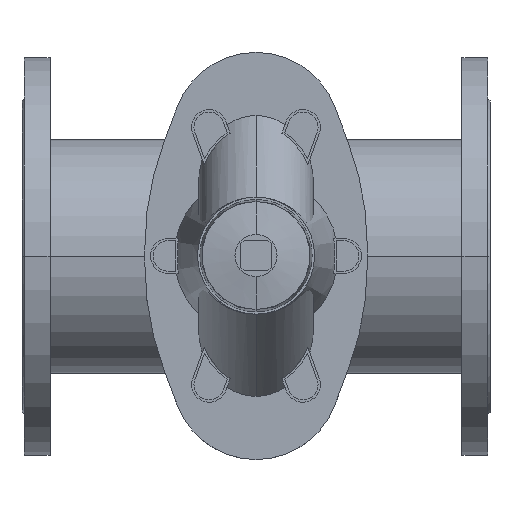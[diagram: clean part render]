
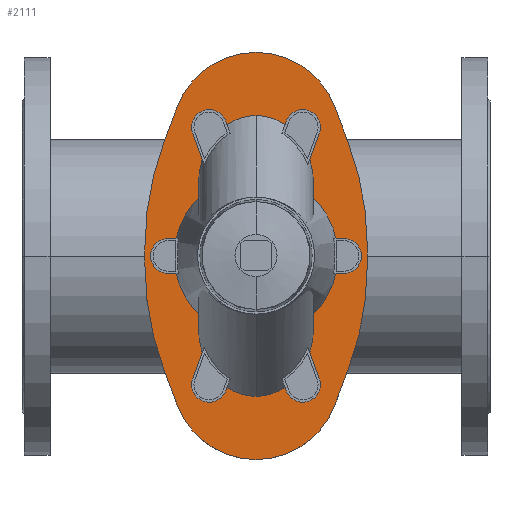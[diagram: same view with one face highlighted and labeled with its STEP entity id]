
A CAD part, top view. The second image highlights one B-rep face of the part: STEP entity #2111.
In plain terms, the highlighted planar face has unit normal (0, 0, 1).
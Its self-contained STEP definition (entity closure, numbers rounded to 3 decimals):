
#2111=ADVANCED_FACE('',(#3930),#3931,.T.);
#3930=FACE_OUTER_BOUND('',#5889,.T.);
#3931=PLANE('',#5890);
#5889=EDGE_LOOP('',(#10248,#10249,#10250,#10251,#10252,#10253,#10254,#10255,#10256,#10257,#10258,#10259,#10260,#10261));
#5890=AXIS2_PLACEMENT_3D('',#10262,#10263,#10264);
#10248=ORIENTED_EDGE('',*,*,#11190,.F.);
#10249=ORIENTED_EDGE('',*,*,#11006,.F.);
#10250=ORIENTED_EDGE('',*,*,#10759,.F.);
#10251=ORIENTED_EDGE('',*,*,#11421,.F.);
#10252=ORIENTED_EDGE('',*,*,#11772,.F.);
#10253=ORIENTED_EDGE('',*,*,#10664,.F.);
#10254=ORIENTED_EDGE('',*,*,#11142,.F.);
#10255=ORIENTED_EDGE('',*,*,#10411,.F.);
#10256=ORIENTED_EDGE('',*,*,#11789,.F.);
#10257=ORIENTED_EDGE('',*,*,#11247,.F.);
#10258=ORIENTED_EDGE('',*,*,#11885,.F.);
#10259=ORIENTED_EDGE('',*,*,#10478,.F.);
#10260=ORIENTED_EDGE('',*,*,#11674,.F.);
#10261=ORIENTED_EDGE('',*,*,#10383,.F.);
#10262=CARTESIAN_POINT('',(200.051,0.001,281.0));
#10263=DIRECTION('',(0.0,0.0,1.0));
#10264=DIRECTION('',(1.0,0.0,0.0));
#10383=EDGE_CURVE('',#12180,#12175,#12182,.T.);
#10411=EDGE_CURVE('',#12230,#12231,#12232,.T.);
#10478=EDGE_CURVE('',#12343,#12338,#12345,.T.);
#10664=EDGE_CURVE('',#12668,#12670,#12671,.T.);
#10759=EDGE_CURVE('',#12825,#12826,#12827,.T.);
#11006=EDGE_CURVE('',#12826,#13218,#13219,.T.);
#11142=EDGE_CURVE('',#12231,#12668,#13423,.T.);
#11190=EDGE_CURVE('',#13218,#12180,#13497,.T.);
#11247=EDGE_CURVE('',#13583,#13584,#13585,.T.);
#11421=EDGE_CURVE('',#13827,#12825,#13829,.T.);
#11674=EDGE_CURVE('',#12175,#12343,#14161,.T.);
#11772=EDGE_CURVE('',#12670,#13827,#14274,.T.);
#11789=EDGE_CURVE('',#13584,#12230,#14293,.T.);
#11885=EDGE_CURVE('',#12338,#13583,#14401,.T.);
#12175=VERTEX_POINT('',#14732);
#12180=VERTEX_POINT('',#14738);
#12182=CIRCLE('',#14741,261.98);
#12230=VERTEX_POINT('',#14803);
#12231=VERTEX_POINT('',#14804);
#12232=LINE('',#14805,#14806);
#12338=VERTEX_POINT('',#14941);
#12343=VERTEX_POINT('',#14947);
#12345=CIRCLE('',#14950,261.98);
#12668=VERTEX_POINT('',#15351);
#12670=VERTEX_POINT('',#15354);
#12671=CIRCLE('',#15355,250.48);
#12825=VERTEX_POINT('',#15550);
#12826=VERTEX_POINT('',#15551);
#12827=LINE('',#15552,#15553);
#13218=VERTEX_POINT('',#16061);
#13219=CIRCLE('',#16062,71.99);
#13423=CIRCLE('',#16330,250.48);
#13497=LINE('',#16426,#16427);
#13583=VERTEX_POINT('',#16544);
#13584=VERTEX_POINT('',#16545);
#13585=LINE('',#16546,#16547);
#13827=VERTEX_POINT('',#16853);
#13829=CIRCLE('',#16856,250.48);
#14161=CIRCLE('',#17283,261.98);
#14274=CIRCLE('',#17427,250.48);
#14293=CIRCLE('',#17449,71.99);
#14401=CIRCLE('',#17579,261.98);
#14732=CARTESIAN_POINT('',(104.94,-6.191,281.0));
#14738=CARTESIAN_POINT('',(121.792,-98.634,281.0));
#14741=AXIS2_PLACEMENT_3D('',#17870,#17871,#17872);
#14803=CARTESIAN_POINT('',(267.365,127.417,281.0));
#14804=CARTESIAN_POINT('',(279.022,96.504,281.0));
#14805=CARTESIAN_POINT('',(279.022,96.504,281.0));
#14806=VECTOR('',#17905,1.);
#14941=CARTESIAN_POINT('',(104.94,6.191,281.0));
#14947=CARTESIAN_POINT('',(105.013,0.,281.0));
#14950=AXIS2_PLACEMENT_3D('',#17994,#17995,#17996);
#15351=CARTESIAN_POINT('',(295.134,8.121,281.0));
#15354=CARTESIAN_POINT('',(294.997,-0.153,281.0));
#15355=AXIS2_PLACEMENT_3D('',#18298,#18299,#18300);
#15550=CARTESIAN_POINT('',(279.041,-96.424,281.0));
#15551=CARTESIAN_POINT('',(267.373,-127.395,281.0));
#15552=CARTESIAN_POINT('',(267.373,-127.395,281.0));
#15553=VECTOR('',#18423,1.0);
#16061=CARTESIAN_POINT('',(132.646,-127.417,281.0));
#16062=AXIS2_PLACEMENT_3D('',#18751,#18752,#18753);
#16330=AXIS2_PLACEMENT_3D('',#18923,#18924,#18925);
#16426=CARTESIAN_POINT('',(121.792,-98.634,281.0));
#16427=VECTOR('',#18984,1.0);
#16544=CARTESIAN_POINT('',(121.792,98.634,281.0));
#16545=CARTESIAN_POINT('',(132.646,127.417,281.0));
#16546=CARTESIAN_POINT('',(132.646,127.417,281.0));
#16547=VECTOR('',#19049,1.0);
#16853=CARTESIAN_POINT('',(295.124,-8.117,281.0));
#16856=AXIS2_PLACEMENT_3D('',#19286,#19287,#19288);
#17283=AXIS2_PLACEMENT_3D('',#19624,#19625,#19626);
#17427=AXIS2_PLACEMENT_3D('',#19724,#19725,#19726);
#17449=AXIS2_PLACEMENT_3D('',#19739,#19740,#19741);
#17579=AXIS2_PLACEMENT_3D('',#19854,#19855,#19856);
#17870=CARTESIAN_POINT('',(366.92,-6.191,281.0));
#17871=DIRECTION('',(0.0,0.0,-1.0));
#17872=DIRECTION('',(1.0,0.0,0.0));
#17905=DIRECTION('',(0.353,-0.936,0.0));
#17994=CARTESIAN_POINT('',(366.92,6.191,281.0));
#17995=DIRECTION('',(0.0,0.0,-1.0));
#17996=DIRECTION('',(1.0,0.0,0.0));
#18298=CARTESIAN_POINT('',(44.654,8.121,281.0));
#18299=DIRECTION('',(0.0,0.0,-1.0));
#18300=DIRECTION('',(1.0,0.0,0.0));
#18423=DIRECTION('',(-0.353,-0.936,-0.0));
#18751=CARTESIAN_POINT('',(200.005,-102.014,281.0));
#18752=DIRECTION('',(0.0,0.0,-1.0));
#18753=DIRECTION('',(1.0,0.0,0.0));
#18923=CARTESIAN_POINT('',(44.654,8.121,281.0));
#18924=DIRECTION('',(0.0,0.0,-1.0));
#18925=DIRECTION('',(1.0,0.0,0.0));
#18984=DIRECTION('',(-0.353,0.936,0.0));
#19049=DIRECTION('',(0.353,0.936,0.0));
#19286=CARTESIAN_POINT('',(44.644,-8.117,281.0));
#19287=DIRECTION('',(0.0,0.0,-1.0));
#19288=DIRECTION('',(1.0,0.0,0.0));
#19624=CARTESIAN_POINT('',(366.92,-6.191,281.0));
#19625=DIRECTION('',(0.0,0.0,-1.0));
#19626=DIRECTION('',(1.0,0.0,0.0));
#19724=CARTESIAN_POINT('',(44.644,-8.117,281.0));
#19725=DIRECTION('',(0.0,0.0,-1.0));
#19726=DIRECTION('',(1.0,0.0,0.0));
#19739=CARTESIAN_POINT('',(200.005,102.014,281.0));
#19740=DIRECTION('',(0.0,0.0,-1.0));
#19741=DIRECTION('',(1.0,0.0,0.0));
#19854=CARTESIAN_POINT('',(366.92,6.191,281.0));
#19855=DIRECTION('',(0.0,0.0,-1.0));
#19856=DIRECTION('',(1.0,0.0,0.0));
